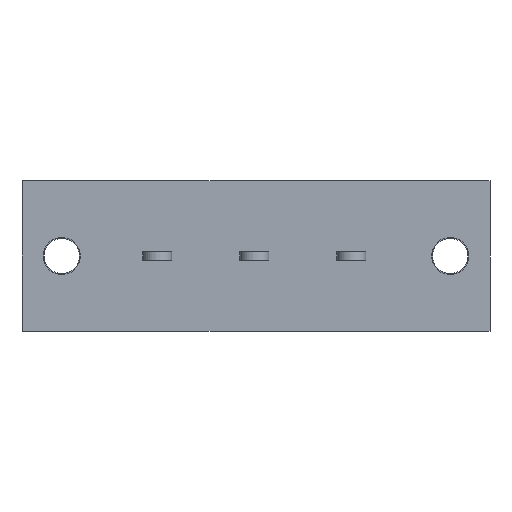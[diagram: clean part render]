
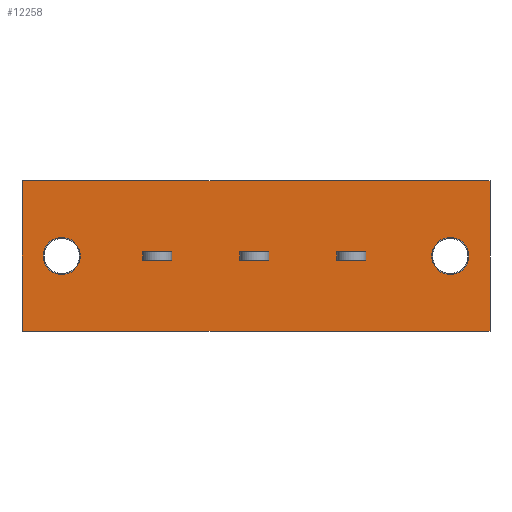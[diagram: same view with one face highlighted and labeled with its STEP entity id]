
A CAD part, front view. The second image highlights one B-rep face of the part: STEP entity #12258.
In plain terms, the highlighted planar face has unit normal (0, -1, 0).
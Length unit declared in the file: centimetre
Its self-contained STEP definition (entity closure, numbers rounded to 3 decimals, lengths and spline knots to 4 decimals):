
#908=VECTOR('',#13342,1.);
#1399=VECTOR('',#14141,1.);
#1568=VECTOR('',#14584,1.);
#1572=VECTOR('',#14591,1.);
#1582=VECTOR('',#14619,1.);
#1585=VECTOR('',#14631,1.);
#1703=VECTOR('',#14945,1.);
#1707=VECTOR('',#14952,1.);
#1717=VECTOR('',#14980,1.);
#1720=VECTOR('',#14992,1.);
#1787=VECTOR('',#15117,1.);
#1788=VECTOR('',#15118,1.);
#1789=VECTOR('',#15119,1.);
#1790=VECTOR('',#15120,1.);
#1791=VECTOR('',#15121,1.);
#1792=VECTOR('',#15122,1.);
#2250=LINE('',#16774,#908);
#2741=LINE('',#18613,#1399);
#2910=LINE('',#19168,#1568);
#2914=LINE('',#19179,#1572);
#2924=LINE('',#19210,#1582);
#2927=LINE('',#19221,#1585);
#3045=LINE('',#19622,#1703);
#3049=LINE('',#19633,#1707);
#3059=LINE('',#19664,#1717);
#3062=LINE('',#19675,#1720);
#3129=LINE('',#19837,#1787);
#3130=LINE('',#19840,#1788);
#3131=LINE('',#19842,#1789);
#3132=LINE('',#19844,#1790);
#3133=LINE('',#19845,#1791);
#3134=LINE('',#19846,#1792);
#3599=VERTEX_POINT('',#16775);
#3600=VERTEX_POINT('',#16776);
#3611=VERTEX_POINT('',#16800);
#4046=VERTEX_POINT('',#18614);
#4047=VERTEX_POINT('',#18615);
#4058=VERTEX_POINT('',#18639);
#4229=VERTEX_POINT('',#19169);
#4230=VERTEX_POINT('',#19170);
#4234=VERTEX_POINT('',#19180);
#4244=VERTEX_POINT('',#19211);
#4369=VERTEX_POINT('',#19623);
#4370=VERTEX_POINT('',#19624);
#4374=VERTEX_POINT('',#19634);
#4384=VERTEX_POINT('',#19665);
#4444=VERTEX_POINT('',#19838);
#4445=VERTEX_POINT('',#19839);
#4446=VERTEX_POINT('',#19841);
#4447=VERTEX_POINT('',#19843);
#4469=CIRCLE('',#20093,0.21);
#4512=CIRCLE('',#20330,0.21);
#5195=EDGE_CURVE('',#3599,#3600,#2250,.T.);
#5207=EDGE_CURVE('',#3611,#3611,#4469,.T.);
#5850=EDGE_CURVE('',#4046,#4047,#2741,.T.);
#5862=EDGE_CURVE('',#4058,#4058,#4512,.T.);
#6111=EDGE_CURVE('',#4229,#4230,#2910,.T.);
#6116=EDGE_CURVE('',#4234,#4229,#2914,.T.);
#6131=EDGE_CURVE('',#4230,#4244,#2924,.T.);
#6136=EDGE_CURVE('',#4244,#4234,#2927,.T.);
#6319=EDGE_CURVE('',#4369,#4370,#3045,.T.);
#6324=EDGE_CURVE('',#4374,#4369,#3049,.T.);
#6339=EDGE_CURVE('',#4370,#4384,#3059,.T.);
#6344=EDGE_CURVE('',#4384,#4374,#3062,.T.);
#6427=EDGE_CURVE('',#4444,#4445,#3129,.T.);
#6428=EDGE_CURVE('',#4446,#4444,#3130,.T.);
#6429=EDGE_CURVE('',#4447,#4446,#3131,.T.);
#6430=EDGE_CURVE('',#4445,#4447,#3132,.T.);
#6431=EDGE_CURVE('',#4047,#3599,#3133,.T.);
#6432=EDGE_CURVE('',#3600,#4046,#3134,.T.);
#9902=ORIENTED_EDGE('',*,*,#5207,.T.);
#9903=ORIENTED_EDGE('',*,*,#5862,.T.);
#9904=ORIENTED_EDGE('',*,*,#6427,.F.);
#9905=ORIENTED_EDGE('',*,*,#6428,.F.);
#9906=ORIENTED_EDGE('',*,*,#6429,.F.);
#9907=ORIENTED_EDGE('',*,*,#6430,.F.);
#9908=ORIENTED_EDGE('',*,*,#6116,.T.);
#9909=ORIENTED_EDGE('',*,*,#6111,.T.);
#9910=ORIENTED_EDGE('',*,*,#6131,.T.);
#9911=ORIENTED_EDGE('',*,*,#6136,.T.);
#9912=ORIENTED_EDGE('',*,*,#6324,.T.);
#9913=ORIENTED_EDGE('',*,*,#6319,.T.);
#9914=ORIENTED_EDGE('',*,*,#6339,.T.);
#9915=ORIENTED_EDGE('',*,*,#6344,.T.);
#9916=ORIENTED_EDGE('',*,*,#6431,.T.);
#9917=ORIENTED_EDGE('',*,*,#5195,.T.);
#9918=ORIENTED_EDGE('',*,*,#6432,.T.);
#9919=ORIENTED_EDGE('',*,*,#5850,.T.);
#10817=EDGE_LOOP('',(#9902));
#10818=EDGE_LOOP('',(#9903));
#10819=EDGE_LOOP('',(#9904,#9905,#9906,#9907));
#10820=EDGE_LOOP('',(#9908,#9909,#9910,#9911));
#10821=EDGE_LOOP('',(#9912,#9913,#9914,#9915));
#10822=EDGE_LOOP('',(#9916,#9917,#9918,#9919));
#11577=FACE_BOUND('',#10817,.T.);
#11578=FACE_BOUND('',#10818,.T.);
#11579=FACE_BOUND('',#10819,.T.);
#11580=FACE_BOUND('',#10820,.T.);
#11581=FACE_BOUND('',#10821,.T.);
#11582=FACE_BOUND('',#10822,.T.);
#12258=ADVANCED_FACE('',(#11577,#11578,#11579,#11580,#11581,#11582),#12725,
 .T.);
#12725=PLANE('',#20682);
#13342=DIRECTION('',(0.,0.,1.));
#13360=DIRECTION('',(0.,1.,0.));
#13361=DIRECTION('',(0.21,0.,0.));
#14141=DIRECTION('',(0.,0.,-1.));
#14159=DIRECTION('',(0.,1.,0.));
#14160=DIRECTION('',(-0.21,0.,0.));
#14584=DIRECTION('',(0.,0.,-1.));
#14591=DIRECTION('',(1.,0.,0.));
#14619=DIRECTION('',(-1.,0.,0.));
#14631=DIRECTION('',(0.,0.,1.));
#14945=DIRECTION('',(0.,0.,-1.));
#14952=DIRECTION('',(1.,0.,0.));
#14980=DIRECTION('',(-1.,0.,0.));
#14992=DIRECTION('',(0.,0.,1.));
#15116=DIRECTION('',(0.,-1.,0.));
#15117=DIRECTION('',(-1.,0.,0.));
#15118=DIRECTION('',(0.,0.,1.));
#15119=DIRECTION('',(1.,0.,0.));
#15120=DIRECTION('',(0.,0.,-1.));
#15121=DIRECTION('',(1.,0.,0.));
#15122=DIRECTION('',(-1.,0.,0.));
#16774=CARTESIAN_POINT('',(3.3,0.,0.85));
#16775=CARTESIAN_POINT('',(3.3,0.,-0.85));
#16776=CARTESIAN_POINT('',(3.3,0.,0.85));
#16799=CARTESIAN_POINT('',(2.85,0.,0.));
#16800=CARTESIAN_POINT('',(2.64,0.,0.));
#18613=CARTESIAN_POINT('',(-2.,0.,-0.85));
#18614=CARTESIAN_POINT('',(-2.,0.,0.85));
#18615=CARTESIAN_POINT('',(-2.,0.,-0.85));
#18638=CARTESIAN_POINT('',(-1.55,0.,0.));
#18639=CARTESIAN_POINT('',(-1.34,0.,0.));
#19168=CARTESIAN_POINT('',(1.895,0.,0.));
#19169=CARTESIAN_POINT('',(1.895,0.,0.05));
#19170=CARTESIAN_POINT('',(1.895,0.,-0.05));
#19179=CARTESIAN_POINT('',(0.865,0.,0.05));
#19180=CARTESIAN_POINT('',(1.565,0.,0.05));
#19210=CARTESIAN_POINT('',(0.865,0.,-0.05));
#19211=CARTESIAN_POINT('',(1.565,0.,-0.05));
#19221=CARTESIAN_POINT('',(1.565,0.,0.));
#19622=CARTESIAN_POINT('',(0.795,0.,0.));
#19623=CARTESIAN_POINT('',(0.795,0.,0.05));
#19624=CARTESIAN_POINT('',(0.795,0.,-0.05));
#19633=CARTESIAN_POINT('',(0.315,0.,0.05));
#19634=CARTESIAN_POINT('',(0.465,0.,0.05));
#19664=CARTESIAN_POINT('',(0.315,0.,-0.05));
#19665=CARTESIAN_POINT('',(0.465,0.,-0.05));
#19675=CARTESIAN_POINT('',(0.465,0.,0.));
#19836=CARTESIAN_POINT('',(0.,0.,0.));
#19837=CARTESIAN_POINT('',(-0.685,0.,0.05));
#19838=CARTESIAN_POINT('',(-0.305,0.,0.05));
#19839=CARTESIAN_POINT('',(-0.635,0.,0.05));
#19840=CARTESIAN_POINT('',(-0.305,0.,0.));
#19841=CARTESIAN_POINT('',(-0.305,0.,-0.05));
#19842=CARTESIAN_POINT('',(-0.685,0.,-0.05));
#19843=CARTESIAN_POINT('',(-0.635,0.,-0.05));
#19844=CARTESIAN_POINT('',(-0.635,0.,0.));
#19845=CARTESIAN_POINT('',(0.,0.,-0.85));
#19846=CARTESIAN_POINT('',(-1.1,0.,0.85));
#20093=AXIS2_PLACEMENT_3D('',#16799,#13360,#13361);
#20330=AXIS2_PLACEMENT_3D('',#18638,#14159,#14160);
#20682=AXIS2_PLACEMENT_3D('',#19836,#15116,$);
